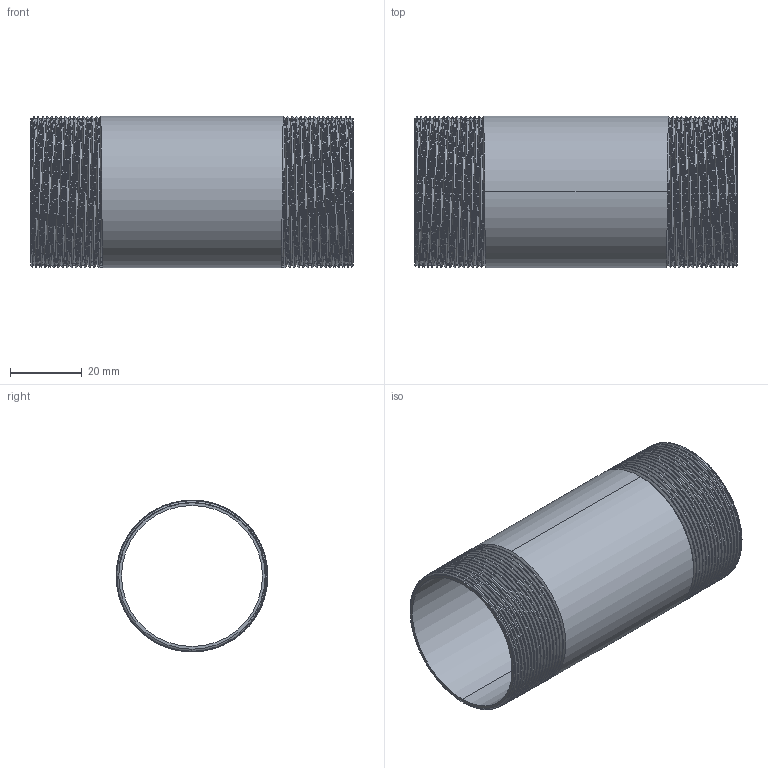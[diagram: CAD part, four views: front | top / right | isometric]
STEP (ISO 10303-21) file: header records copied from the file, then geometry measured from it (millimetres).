
FILE_DESCRIPTION (( 'STEP AP203' ), '1' );
FILE_NAME ('3D_R210_1 1-4x90_17185758.STEP', '2024-08-16T11:31:37', ( '' ), ( '' ), 'SwSTEP 2.0', 'SolidWorks 2024', '' );
FILE_SCHEMA (( 'CONFIG_CONTROL_DESIGN' ));
Length unit declared in the file: millimetre
Products named in the file (1): 3D_R210_1 1-4x90_17185758
Bounding box: 90 x 42.39 x 42.4 mm (x, y, z)
Volume: 15179.7 mm3; surface area: 26018.6 mm2
Topology: 1 solids, 1 shells, 82 faces, 232 edges, 152 vertices
Faces by surface type: cone 68, bspline 6, cylinder 4, plane 4
Entity records: 13957 total; most frequent: CARTESIAN_POINT 12055, ORIENTED_EDGE 464, DIRECTION 256, EDGE_CURVE 232, VERTEX_POINT 152, B_SPLINE_CURVE_WITH_KNOTS 134, AXIS2_PLACEMENT_3D 89, EDGE_LOOP 84
